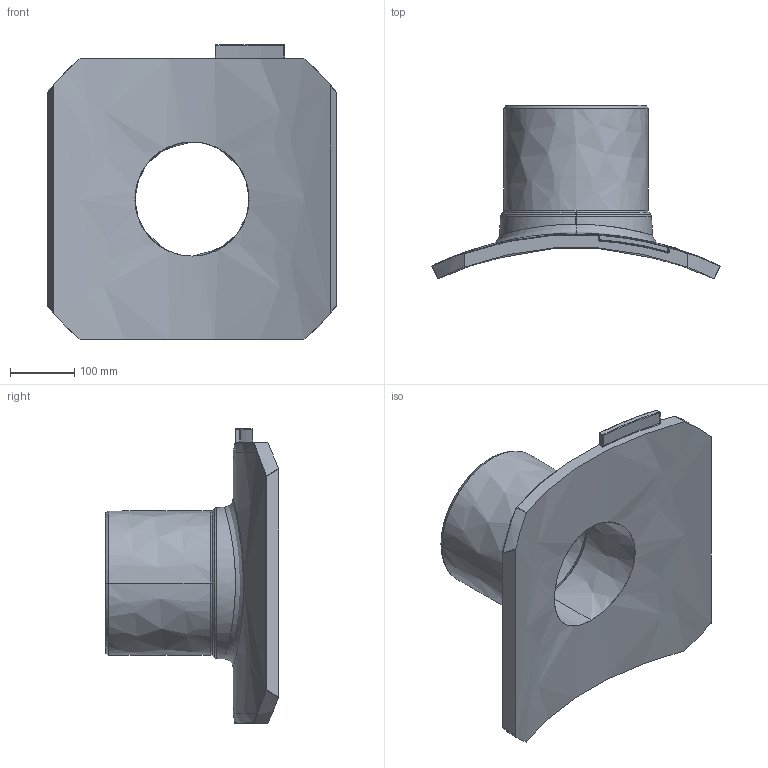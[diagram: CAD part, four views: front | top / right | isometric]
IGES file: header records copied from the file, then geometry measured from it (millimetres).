
Start section:  PTC IGES file: sa-uni_d1000_225-01.igs
Global section: file name: sa-uni_d1000_225-01.igs; native system: Creo Parametric by PTC Inc.; preprocessor: 2022124; author: mikulicp; organization: Unknown; date: 20240701.105702; units: millimetre
Bounding box: 449.67 x 270.91 x 460 mm (x, y, z)
Surface area: 647788.5 mm2 (no closed solid volume)
Topology: 0 solids, 0 shells, 220 faces, 1094 edges, 1094 vertices
Faces by surface type: bspline 220
